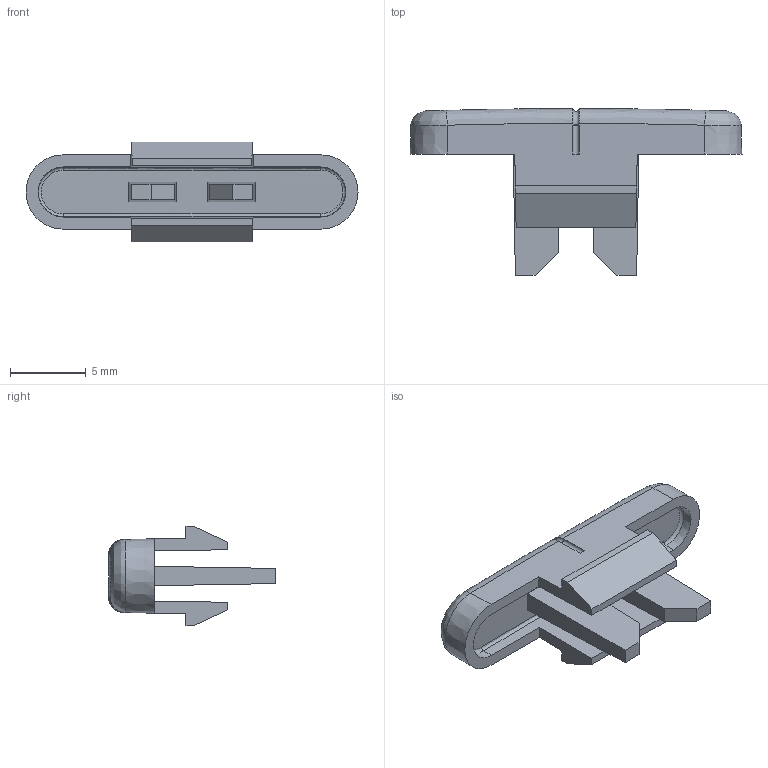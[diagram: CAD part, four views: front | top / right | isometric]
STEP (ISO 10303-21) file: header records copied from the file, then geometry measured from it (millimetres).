
FILE_DESCRIPTION((''),'2;1');
FILE_NAME('\\Vx-marco_a\INVENTOR_PRJ\Vivavoce\citofono-vivavoce 4\STEP_x_prototipi\Cursore_02.stp','2007-10-26T15:41:19',('marco.a'),(''),'Autodesk Inventor 11','Autodesk Inventor 11','');
FILE_SCHEMA(('AUTOMOTIVE_DESIGN { 1 0 10303 214 1 1 1 1 }'));
Length unit declared in the file: millimetre
Products named in the file (1): Cursore_02
Bounding box: 21.9 x 11 x 6.57 mm (x, y, z)
Volume: 362.6 mm3; surface area: 690.3 mm2
Topology: 1 solids, 1 shells, 56 faces, 140 edges, 88 vertices
Faces by surface type: plane 32, bspline 10, cylinder 8, cone 4, torus 2
Entity records: 2795 total; most frequent: CARTESIAN_POINT 1467, ORIENTED_EDGE 280, DIRECTION 254, EDGE_CURVE 140, VERTEX_POINT 88, VECTOR 88, LINE 88, AXIS2_PLACEMENT_3D 83
